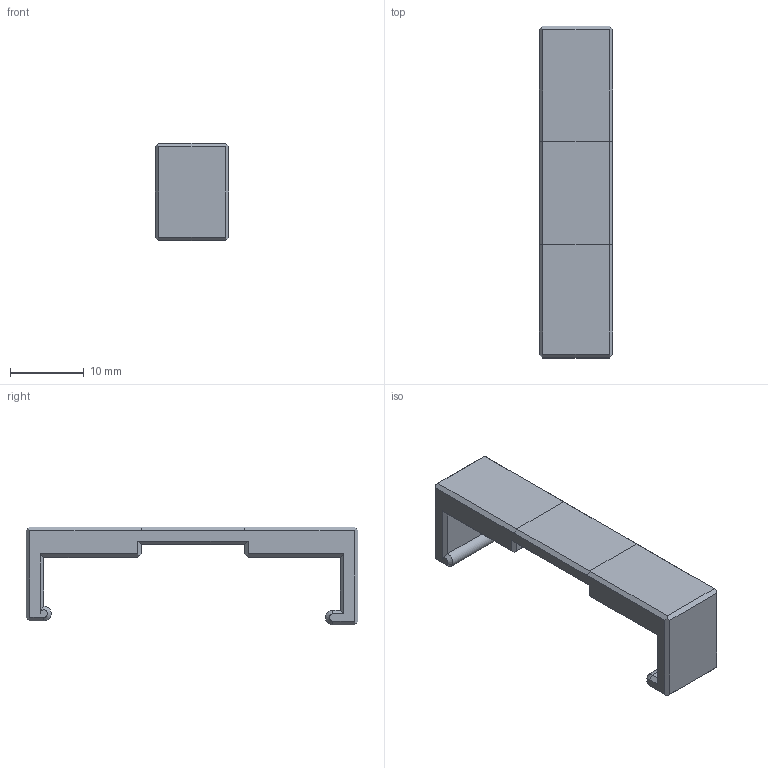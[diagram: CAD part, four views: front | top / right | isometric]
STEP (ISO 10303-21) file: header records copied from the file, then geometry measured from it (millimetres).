
FILE_DESCRIPTION(('CATIA V5 STEP Exchange'),'2;1');
FILE_NAME('D:\_이전 노트북\Cremaker모델링\Cremaker_profile-Metal(4차)-M6(final)\Cable-Cap-2-1.stp','2020-10-23T05:33:09+00:00',('none'),('none'),'CATIA Version 5 Release 20 GA (IN-10)','CATIA V5 STEP AP203','none');
FILE_SCHEMA(('CONFIG_CONTROL_DESIGN'));
Length unit declared in the file: millimetre
Products named in the file (1): Cable-Cap-2-1
Bounding box: 10 x 45.05 x 13.3 mm (x, y, z)
Volume: 2059.9 mm3; surface area: 1736.8 mm2
Topology: 1 solids, 1 shells, 59 faces, 149 edges, 92 vertices
Faces by surface type: plane 53, cone 4, cylinder 2
Entity records: 1700 total; most frequent: CARTESIAN_POINT 360, ORIENTED_EDGE 298, DIRECTION 213, EDGE_CURVE 149, VECTOR 93, LINE 93, VERTEX_POINT 92, AXIS2_PLACEMENT_3D 65
